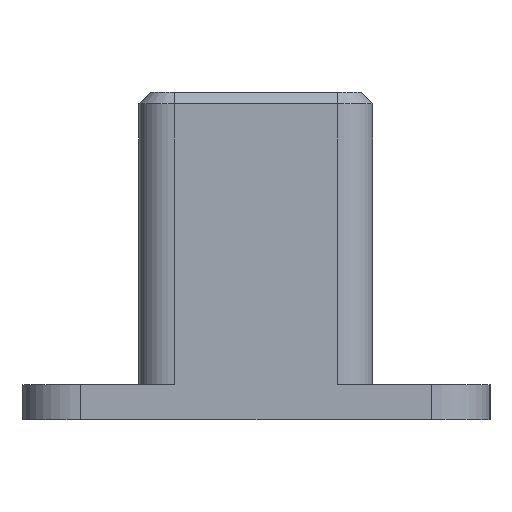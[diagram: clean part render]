
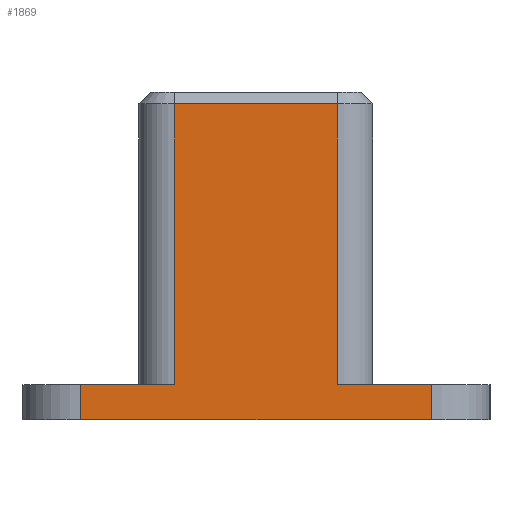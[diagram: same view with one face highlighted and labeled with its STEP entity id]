
A CAD part, left-side view. The second image highlights one B-rep face of the part: STEP entity #1869.
In plain terms, the highlighted planar face has unit normal (-1, 0, 0).
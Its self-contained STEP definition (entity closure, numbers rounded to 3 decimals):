
#285=ORIENTED_EDGE('',*,*,#836,.F.);
#286=ORIENTED_EDGE('',*,*,#837,.T.);
#287=ORIENTED_EDGE('',*,*,#838,.T.);
#288=ORIENTED_EDGE('',*,*,#839,.F.);
#289=ORIENTED_EDGE('',*,*,#840,.T.);
#290=ORIENTED_EDGE('',*,*,#841,.T.);
#291=ORIENTED_EDGE('',*,*,#842,.F.);
#292=ORIENTED_EDGE('',*,*,#843,.F.);
#836=EDGE_CURVE('',#1106,#1107,#1278,.T.);
#837=EDGE_CURVE('',#1106,#1108,#1279,.T.);
#838=EDGE_CURVE('',#1108,#1109,#1280,.T.);
#839=EDGE_CURVE('',#1110,#1109,#1281,.T.);
#840=EDGE_CURVE('',#1110,#1111,#1282,.T.);
#841=EDGE_CURVE('',#1111,#1112,#1283,.T.);
#842=EDGE_CURVE('',#1113,#1112,#1284,.T.);
#843=EDGE_CURVE('',#1107,#1113,#1285,.T.);
#1106=VERTEX_POINT('',#2919);
#1107=VERTEX_POINT('',#2920);
#1108=VERTEX_POINT('',#2922);
#1109=VERTEX_POINT('',#2924);
#1110=VERTEX_POINT('',#2926);
#1111=VERTEX_POINT('',#2928);
#1112=VERTEX_POINT('',#2930);
#1113=VERTEX_POINT('',#2932);
#1278=LINE('',#2918,#1460);
#1279=LINE('',#2921,#1461);
#1280=LINE('',#2923,#1462);
#1281=LINE('',#2925,#1463);
#1282=LINE('',#2927,#1464);
#1283=LINE('',#2929,#1465);
#1284=LINE('',#2931,#1466);
#1285=LINE('',#2933,#1467);
#1460=VECTOR('',#2309,1000.);
#1461=VECTOR('',#2310,1000.);
#1462=VECTOR('',#2311,1000.);
#1463=VECTOR('',#2312,1000.);
#1464=VECTOR('',#2313,1000.);
#1465=VECTOR('',#2314,1000.);
#1466=VECTOR('',#2315,1000.);
#1467=VECTOR('',#2316,1000.);
#1568=EDGE_LOOP('',(#285,#286,#287,#288,#289,#290,#291,#292));
#1689=FACE_BOUND('',#1568,.T.);
#1808=PLANE('',#2004);
#1869=ADVANCED_FACE('',(#1689),#1808,.F.);
#2004=AXIS2_PLACEMENT_3D('',#2917,#2307,#2308);
#2307=DIRECTION('',(1.,0.,0.));
#2308=DIRECTION('',(0.,0.,-1.));
#2309=DIRECTION('',(0.,0.,-1.));
#2310=DIRECTION('',(0.,1.,0.));
#2311=DIRECTION('',(0.,0.,-1.));
#2312=DIRECTION('',(0.,-1.,0.));
#2313=DIRECTION('',(0.,0.,-1.));
#2314=DIRECTION('',(0.,-1.,0.));
#2315=DIRECTION('',(0.,0.,-1.));
#2316=DIRECTION('',(0.,-1.,0.));
#2917=CARTESIAN_POINT('',(-82.9,10.958,3.));
#2918=CARTESIAN_POINT('',(-82.9,-7.042,28.));
#2919=CARTESIAN_POINT('',(-82.9,-7.042,27.));
#2920=CARTESIAN_POINT('',(-82.9,-7.042,3.));
#2921=CARTESIAN_POINT('',(-82.9,6.958,27.));
#2922=CARTESIAN_POINT('',(-82.9,6.958,27.));
#2923=CARTESIAN_POINT('',(-82.9,6.958,28.));
#2924=CARTESIAN_POINT('',(-82.9,6.958,3.));
#2925=CARTESIAN_POINT('',(-82.9,10.958,3.));
#2926=CARTESIAN_POINT('',(-82.9,14.958,3.));
#2927=CARTESIAN_POINT('',(-82.9,14.958,3.));
#2928=CARTESIAN_POINT('',(-82.9,14.958,0.));
#2929=CARTESIAN_POINT('',(-82.9,10.958,0.));
#2930=CARTESIAN_POINT('',(-82.9,-15.042,0.));
#2931=CARTESIAN_POINT('',(-82.9,-15.042,3.));
#2932=CARTESIAN_POINT('',(-82.9,-15.042,3.));
#2933=CARTESIAN_POINT('',(-82.9,10.958,3.));
